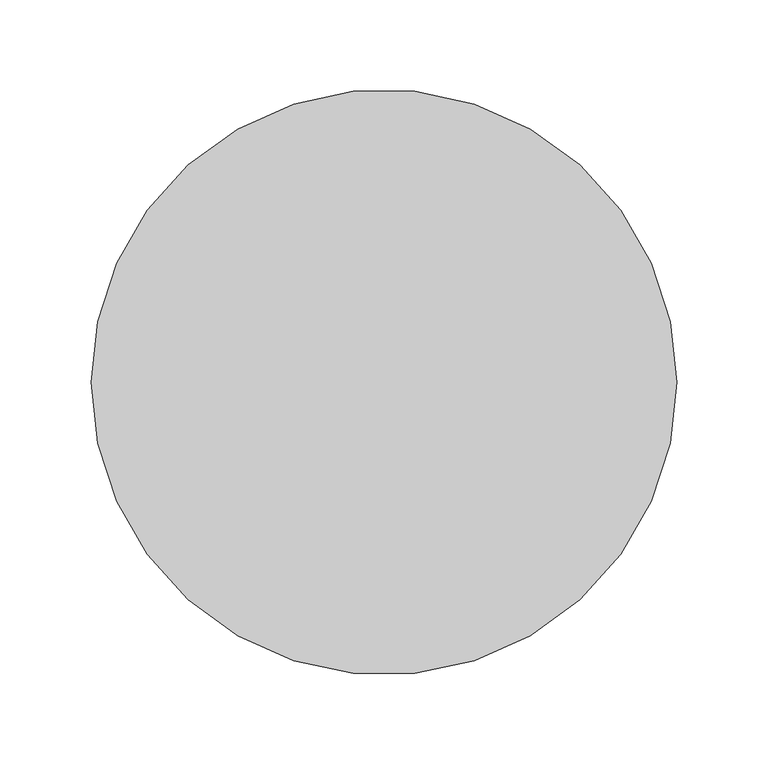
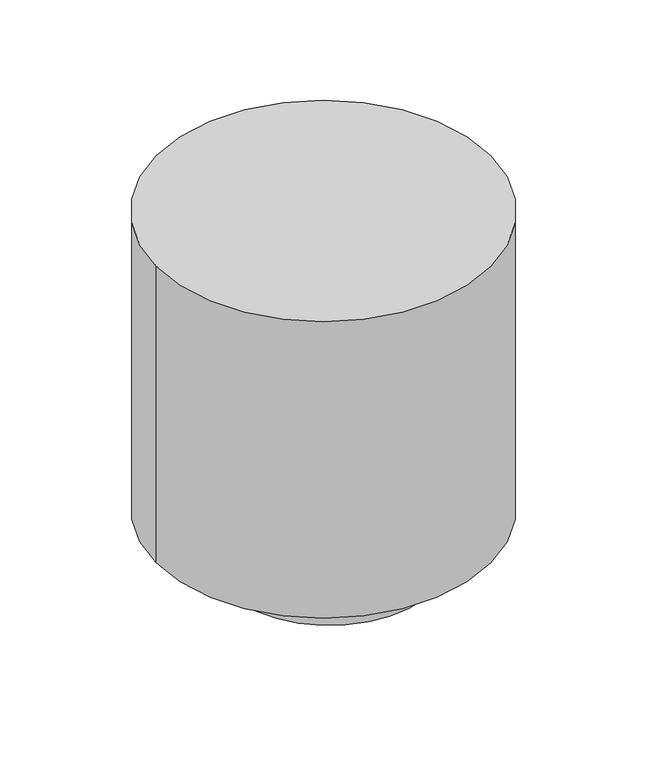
"""IFC4 building model written with IfcOpenShell, lengths in millimetres: proxy geometry, Busto : Busto."""

from ifc_helpers import new_model, si_unit, point, frame, frame_2d, origin, place, context, project, spatial, circle_curve, trimmed, segment, composite_curve, outline, extrude, source, transform, mapped, element, save


def entourage_15c4bb0f(model_context):
    return source(origin(), model_context, "Body", "SweptSolid", [
        extrude(outline(composite_curve([segment(trimmed(circle_curve(frame_2d((-12053.5264805, 8652.4685982)), 160.0), [point((-12213.5264805, 8652.4685982))], [point((-11893.5264805, 8652.4685982))], False, "CARTESIAN"), True, "CONTINUOUS"), segment(trimmed(circle_curve(frame_2d((-12053.5264805, 8652.4685982)), 160.0), [point((-11893.5264805, 8652.4685982))], [point((-12213.5264805, 8652.4685982))], False, "CARTESIAN"), True, "CONTINUOUS")], self_intersect=False)), frame((0.0, 0.0, 1150.0), z_axis=(0.0, 0.0, 1.0), x_axis=(1.0, 0.0, 0.0)), (0.0, 0.0, 1.0), 300.0),
        extrude(outline(composite_curve([segment(trimmed(circle_curve(frame_2d((-12048.624331, 8650.8326654)), 100.0), [point((-12148.624331, 8650.8326654))], [point((-11948.624331, 8650.8326654))], False, "CARTESIAN"), True, "CONTINUOUS"), segment(trimmed(circle_curve(frame_2d((-12048.624331, 8650.8326654)), 100.0), [point((-11948.624331, 8650.8326654))], [point((-12148.624331, 8650.8326654))], False, "CARTESIAN"), True, "CONTINUOUS")], self_intersect=False)), frame((0.0, 0.0, 1100.0), z_axis=(0.0, 0.0, 1.0), x_axis=(1.0, 0.0, 0.0)), (0.0, 0.0, 1.0), 50.0),
    ])


if __name__ == "__main__":
    model = new_model("IFC4")
    model_context = context("Model", 3, world=origin())
    ifc_project = project(units=[si_unit("LENGTHUNIT", "METRE", prefix="MILLI")], contexts=[model_context])
    site = spatial("IfcSite", under=ifc_project)
    building = spatial("IfcBuilding", under=site)
    placement = place(None, origin())
    entourage_shape = entourage_15c4bb0f(model_context)
    element("IfcBuildingElementProxy", 1, Name="Busto : Busto", ObjectType="Busto : Busto", at=placement, inside=building, context=model_context, shape_type="MappedRepresentation", body=[
        mapped(entourage_shape, transform((0.0, 0.0, 0.0), x_axis=(1.0, 0.0, 0.0), y_axis=(0.0, 1.0, 0.0), z_axis=(0.0, 0.0, 1.0))),
    ])
    save(model, "model.ifc")
